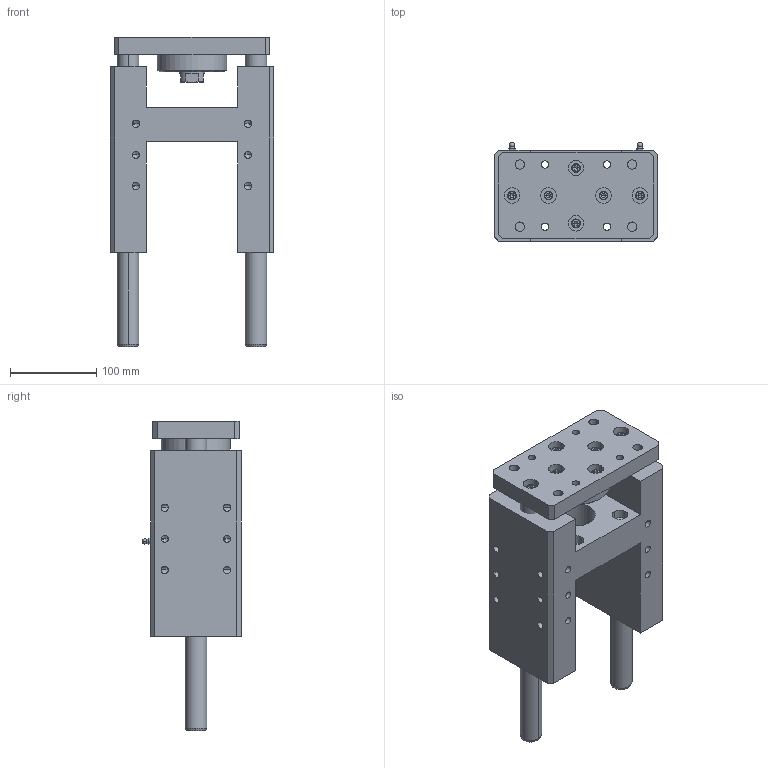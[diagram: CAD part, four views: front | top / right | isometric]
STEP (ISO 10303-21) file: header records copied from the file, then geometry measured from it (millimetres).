
FILE_DESCRIPTION (( 'STEP AP214' ), '1' );
FILE_NAME ('WHCR-080-0100 (3D).STEP', '2018-12-25T06:14:46', ( 'Hidtek' ), ( '' ), 'SwSTEP 2.0', 'SolidWorks 2016', '' );
FILE_SCHEMA (( 'AUTOMOTIVE_DESIGN' ));
Length unit declared in the file: millimetre
Products named in the file (4): Group2^WHCR-080-0100 (3D); WHCR-080-0100 (3D); Group3^WHCR-080-0100 (3D); Group1^WHCR-080-0100 (3D)
Assembly tree (3 placements, depth 2):
  WHCR-080-0100 (3D)
    Group1^WHCR-080-0100 (3D)
    Group2^WHCR-080-0100 (3D)
    Group3^WHCR-080-0100 (3D)
Bounding box: 189 x 114.05 x 358 mm (x, y, z)
Volume: 2952300.3 mm3; surface area: 317739.5 mm2
Topology: 14 solids, 14 shells, 648 faces, 1638 edges, 1034 vertices
Faces by surface type: plane 325, cylinder 140, bspline 103, cone 80
Entity records: 25455 total; most frequent: CARTESIAN_POINT 9249, ORIENTED_EDGE 3172, DIRECTION 2834, EDGE_CURVE 1586, VERTEX_POINT 1034, VECTOR 948, LINE 948, AXIS2_PLACEMENT_3D 943
